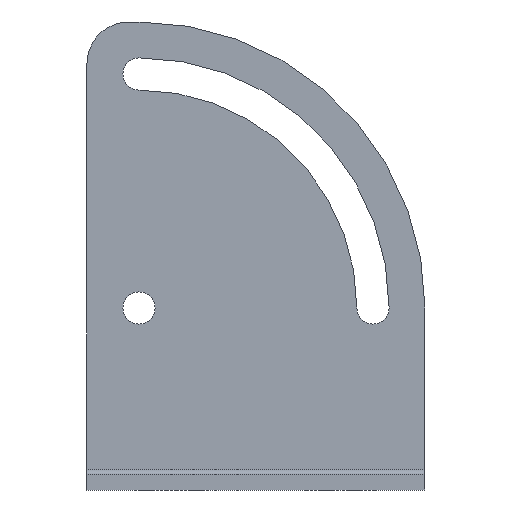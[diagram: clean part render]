
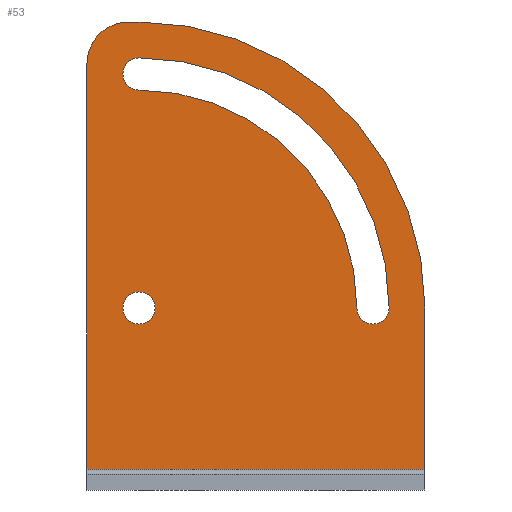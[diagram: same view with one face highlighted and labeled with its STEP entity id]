
A CAD part, front view. The second image highlights one B-rep face of the part: STEP entity #53.
In plain terms, the highlighted planar face has unit normal (0, -1, 0).
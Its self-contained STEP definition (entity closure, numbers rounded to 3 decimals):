
#53=ADVANCED_FACE('',(#122,#123,#124),#125,.F.);
#122=FACE_BOUND('',#209,.T.);
#123=FACE_BOUND('',#210,.T.);
#124=FACE_OUTER_BOUND('',#211,.T.);
#125=PLANE('',#212);
#209=EDGE_LOOP('',(#315));
#210=EDGE_LOOP('',(#316,#317,#318,#319));
#211=EDGE_LOOP('',(#320,#321,#322,#323,#324,#325));
#212=AXIS2_PLACEMENT_3D('',#326,#327,#328);
#315=ORIENTED_EDGE('',*,*,#489,.F.);
#316=ORIENTED_EDGE('',*,*,#490,.T.);
#317=ORIENTED_EDGE('',*,*,#491,.F.);
#318=ORIENTED_EDGE('',*,*,#492,.T.);
#319=ORIENTED_EDGE('',*,*,#493,.F.);
#320=ORIENTED_EDGE('',*,*,#494,.T.);
#321=ORIENTED_EDGE('',*,*,#495,.T.);
#322=ORIENTED_EDGE('',*,*,#496,.T.);
#323=ORIENTED_EDGE('',*,*,#461,.T.);
#324=ORIENTED_EDGE('',*,*,#497,.T.);
#325=ORIENTED_EDGE('',*,*,#498,.T.);
#326=CARTESIAN_POINT('',(-32.5,0.0,45.0));
#327=DIRECTION('',(0.0,1.0,0.0));
#328=DIRECTION('',(0.0,0.0,1.0));
#461=EDGE_CURVE('',#536,#533,#537,.F.);
#489=EDGE_CURVE('',#585,#585,#586,.T.);
#490=EDGE_CURVE('',#587,#588,#589,.T.);
#491=EDGE_CURVE('',#590,#588,#591,.T.);
#492=EDGE_CURVE('',#590,#592,#593,.T.);
#493=EDGE_CURVE('',#587,#592,#594,.T.);
#494=EDGE_CURVE('',#595,#596,#597,.T.);
#495=EDGE_CURVE('',#596,#598,#599,.F.);
#496=EDGE_CURVE('',#598,#536,#600,.T.);
#497=EDGE_CURVE('',#533,#601,#602,.T.);
#498=EDGE_CURVE('',#601,#595,#603,.F.);
#533=VERTEX_POINT('',#644);
#536=VERTEX_POINT('',#647);
#537=LINE('',#648,#649);
#585=VERTEX_POINT('',#706);
#586=CIRCLE('',#707,3.1);
#587=VERTEX_POINT('',#708);
#588=VERTEX_POINT('',#709);
#589=CIRCLE('',#710,48.1);
#590=VERTEX_POINT('',#711);
#591=CIRCLE('',#712,3.1);
#592=VERTEX_POINT('',#713);
#593=CIRCLE('',#714,41.9);
#594=CIRCLE('',#715,3.1);
#595=VERTEX_POINT('',#716);
#596=VERTEX_POINT('',#717);
#597=LINE('',#718,#719);
#598=VERTEX_POINT('',#720);
#599=CIRCLE('',#721,8.0);
#600=LINE('',#722,#723);
#601=VERTEX_POINT('',#724);
#602=LINE('',#725,#726);
#603=CIRCLE('',#727,55.0);
#644=CARTESIAN_POINT('',(32.5,0.0,-41.0));
#647=CARTESIAN_POINT('',(-32.5,0.0,-41.0));
#648=CARTESIAN_POINT('',(32.5,0.0,-41.0));
#649=VECTOR('',#783,1.0);
#706=CARTESIAN_POINT('',(-19.4,0.0,-10.0));
#707=AXIS2_PLACEMENT_3D('',#835,#836,#837);
#708=CARTESIAN_POINT('',(-22.5,0.0,38.1));
#709=CARTESIAN_POINT('',(25.6,0.0,-10.0));
#710=AXIS2_PLACEMENT_3D('',#838,#839,#840);
#711=CARTESIAN_POINT('',(19.4,0.0,-10.0));
#712=AXIS2_PLACEMENT_3D('',#841,#842,#843);
#713=CARTESIAN_POINT('',(-22.5,0.0,31.9));
#714=AXIS2_PLACEMENT_3D('',#844,#845,#846);
#715=AXIS2_PLACEMENT_3D('',#847,#848,#849);
#716=CARTESIAN_POINT('',(-22.5,0.0,45.0));
#717=CARTESIAN_POINT('',(-24.5,0.0,45.0));
#718=CARTESIAN_POINT('',(32.5,0.0,45.0));
#719=VECTOR('',#850,1.0);
#720=CARTESIAN_POINT('',(-32.5,0.0,37.0));
#721=AXIS2_PLACEMENT_3D('',#851,#852,#853);
#722=CARTESIAN_POINT('',(-32.5,0.0,45.0));
#723=VECTOR('',#854,1.0);
#724=CARTESIAN_POINT('',(32.5,0.0,-10.0));
#725=CARTESIAN_POINT('',(32.5,0.0,-45.0));
#726=VECTOR('',#855,1.0);
#727=AXIS2_PLACEMENT_3D('',#856,#857,#858);
#783=DIRECTION('',(-1.0,0.0,0.));
#835=CARTESIAN_POINT('',(-22.5,0.0,-10.0));
#836=DIRECTION('',(0.0,-1.0,0.0));
#837=DIRECTION('',(1.0,0.0,0.0));
#838=CARTESIAN_POINT('',(-22.5,0.0,-10.0));
#839=DIRECTION('',(0.0,1.0,0.0));
#840=DIRECTION('',(-1.0,0.0,0.0));
#841=CARTESIAN_POINT('',(22.5,0.0,-10.0));
#842=DIRECTION('',(0.0,-1.0,0.0));
#843=DIRECTION('',(1.0,0.0,0.0));
#844=CARTESIAN_POINT('',(-22.5,0.0,-10.0));
#845=DIRECTION('',(0.0,-1.0,0.0));
#846=DIRECTION('',(-1.0,0.0,0.0));
#847=CARTESIAN_POINT('',(-22.5,0.0,35.0));
#848=DIRECTION('',(0.0,-1.0,0.0));
#849=DIRECTION('',(1.0,0.0,0.0));
#850=DIRECTION('',(-1.0,0.0,0.));
#851=CARTESIAN_POINT('',(-24.5,0.0,37.0));
#852=DIRECTION('',(0.0,1.0,0.0));
#853=DIRECTION('',(0.0,0.0,1.0));
#854=DIRECTION('',(0.,0.0,-1.0));
#855=DIRECTION('',(0.0,0.0,1.0));
#856=CARTESIAN_POINT('',(-22.5,0.0,-10.0));
#857=DIRECTION('',(0.0,1.0,0.0));
#858=DIRECTION('',(0.0,0.0,1.0));
